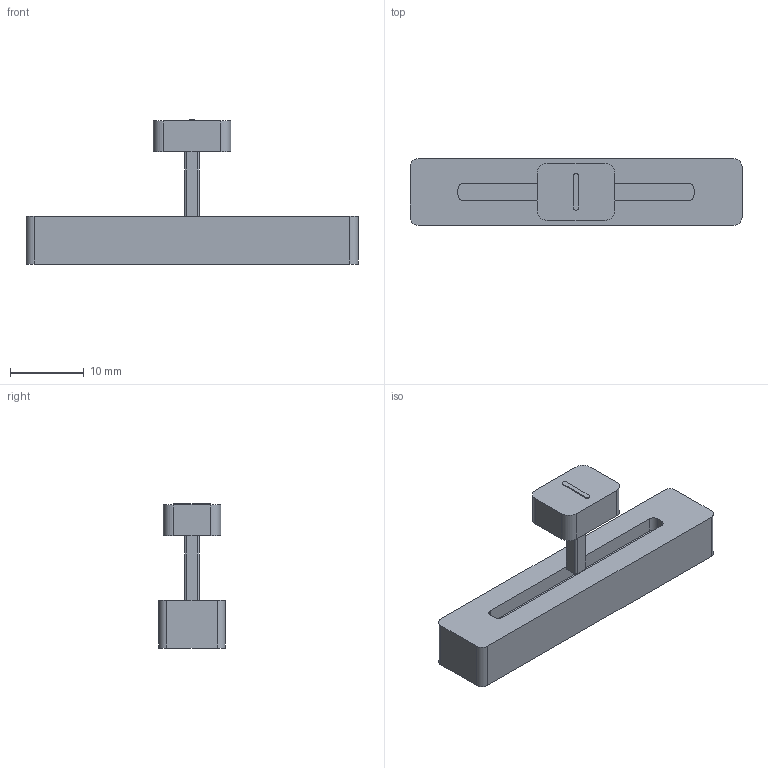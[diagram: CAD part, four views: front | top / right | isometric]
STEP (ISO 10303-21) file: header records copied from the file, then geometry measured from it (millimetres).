
FILE_DESCRIPTION(('Open CASCADE Model'),'2;1');
FILE_NAME('Open CASCADE Shape Model','2026-11-21T14:29:36',('Author'),( 'Open CASCADE'),'Open CASCADE STEP processor 7.9','Open CASCADE 7.9' ,'Unknown');
FILE_SCHEMA(('AUTOMOTIVE_DESIGN { 1 0 10303 214 1 1 1 1 }'));
Length unit declared in the file: millimetre
Products named in the file (5): Crossfader_PTA3043; Metal body; Lever; Cap; Index
Assembly tree (4 placements, depth 2):
  Crossfader_PTA3043
    Metal body
    Lever
    Cap
    Index
Bounding box: 45 x 9 x 19.54 mm (x, y, z)
Volume: 2852.9 mm3; surface area: 2032.1 mm2
Topology: 4 solids, 4 shells, 49 faces, 120 edges, 80 vertices
Faces by surface type: plane 29, cylinder 20
Entity records: 3171 total; most frequent: CARTESIAN_POINT 610, DIRECTION 482, LINE 272, VECTOR 272, ORIENTED_EDGE 240, PCURVE 240, DEFINITIONAL_REPRESENTATION 240, EDGE_CURVE 120
